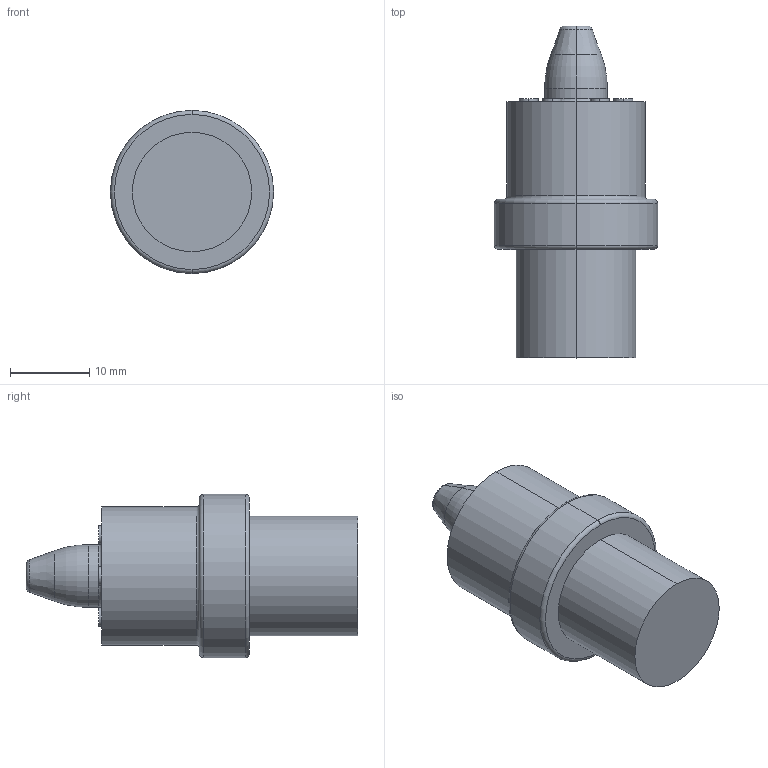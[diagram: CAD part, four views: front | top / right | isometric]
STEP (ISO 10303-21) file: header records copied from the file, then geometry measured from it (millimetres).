
FILE_DESCRIPTION (( 'STEP AP214' ), '1' );
FILE_NAME ('PA-.3125-.050-P-W.stp', '2020-05-01T17:41:15', ( '' ), ( '' ), 'SwSTEP 2.0', 'SolidWorks 2017', '' );
FILE_SCHEMA (( 'AUTOMOTIVE_DESIGN' ));
Length unit declared in the file: inch
Products named in the file (1): PA-.3125-.050-P-W
Bounding box: 20.64 x 41.97 x 20.64 mm (x, y, z)
Volume: 7878.1 mm3; surface area: 2548 mm2
Topology: 1 solids, 1 shells, 45 faces, 88 edges, 54 vertices
Faces by surface type: cylinder 20, torus 12, plane 11, cone 2
Entity records: 1216 total; most frequent: DIRECTION 246, CARTESIAN_POINT 188, ORIENTED_EDGE 176, AXIS2_PLACEMENT_3D 112, EDGE_CURVE 88, CIRCLE 66, EDGE_LOOP 54, VERTEX_POINT 54
